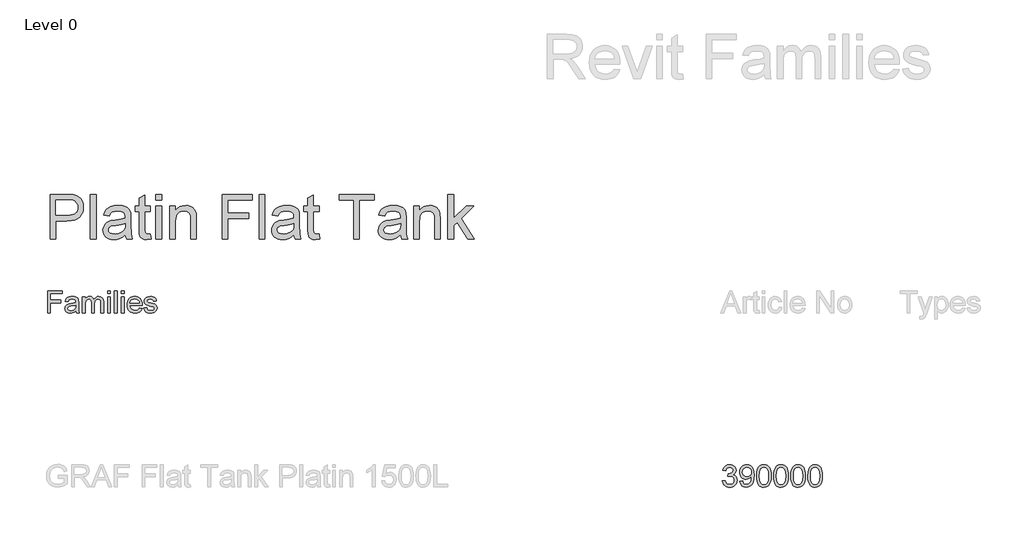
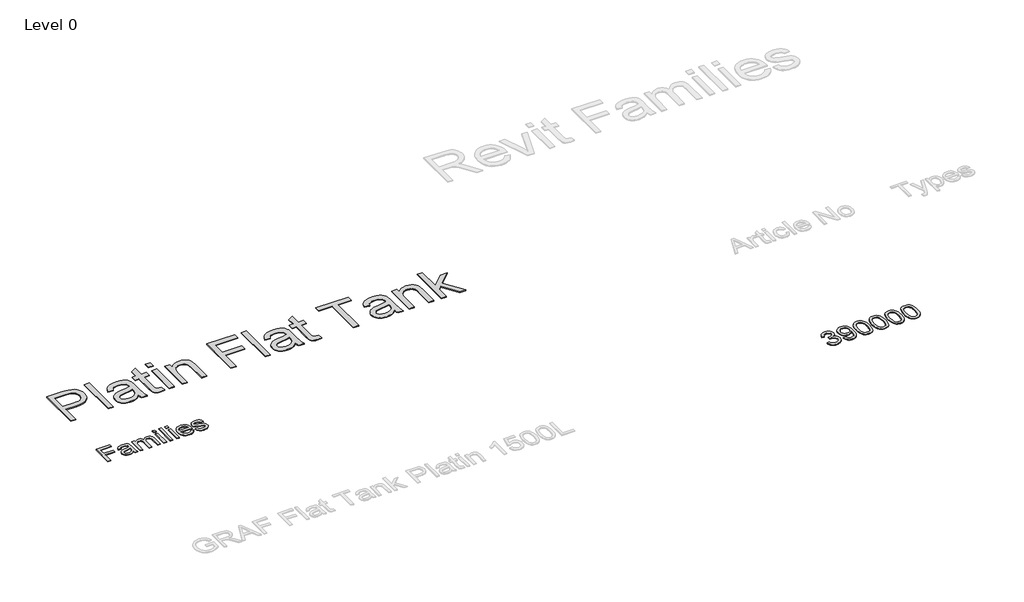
# One storey, part 13 of 14: 3 proxies.
"""IFC4 building model written with IfcOpenShell, lengths in millimetres."""

from ifc_helpers import new_model, si_unit, origin, origin_with_axes, place, context, project, spatial, polyline, outline, extrude, element, save

model = new_model("IFC4")

# Units and contexts
model_context = context("Model", 3, world=origin())
ifc_project = project(units=[si_unit("LENGTHUNIT", "METRE", prefix="MILLI")], contexts=[model_context])

# Site, building, storey
site = spatial("IfcSite", under=ifc_project)
building = spatial("IfcBuilding", under=site)
storey = spatial("IfcBuildingStorey", under=building, Name="Level 0", Elevation=0.0)

# Proxies
placement = place(None, origin())
element("IfcBuildingElementProxy", 1, Name="300mm Arial", ObjectType="300mm Arial", at=placement, inside=storey, context=model_context, shape_type="SweptSolid", body=[
    extrude(outline(polyline([(-15382.9152593, 11653.8274553), (-15382.9152593, 11949.2120707), (-15184.4537209, 11949.2120707), (-15184.4537209, 11912.2889938), (-15345.9921824, 11912.2889938), (-15345.9921824, 11824.5966861), (-15207.530644, 11824.5966861), (-15207.530644, 11787.6736092), (-15345.9921824, 11787.6736092), (-15345.9921824, 11653.8274553), (-15382.9152593, 11653.8274553)])), origin_with_axes(), (0.0, 0.0, 1.0), 10.0),
    extrude(outline(polyline([(-14999.8383363, 11681.519763), (-15017.4795622, 11666.3935611), (-15035.6436247, 11656.4957246), (-15054.7451872, 11651.0329842), (-15075.1989132, 11649.2120707), (-15106.0552834, 11653.5930803), (-15128.8167017, 11666.7361092), (-15142.8521584, 11686.6940419), (-15147.530644, 11711.519763), (-15145.763817, 11726.8262534), (-15140.4633363, 11740.7264938), (-15132.2872545, 11752.6255323), (-15121.8936247, 11761.9284169), (-15096.0402593, 11774.0438015), (-15064.093144, 11779.5966861), (-15026.3407401, 11785.4380323), (-15000.0546824, 11792.2889938), (-14999.8383363, 11800.5101476), (-15002.3804036, 11816.988513), (-15010.0066055, 11827.769763), (-15027.061894, 11835.7745707), (-15050.8239132, 11838.44284), (-15072.8191055, 11836.6669986), (-15088.1796824, 11831.3394746), (-15098.654442, 11821.4867101), (-15105.9921824, 11806.1351476), (-15142.9152593, 11810.7505323), (-15136.5060045, 11830.94284), (-15126.9417017, 11846.8082246), (-15113.3299228, 11858.941638), (-15094.7782401, 11867.9380323), (-15072.0889372, 11873.5089457), (-15046.0642978, 11875.3659169), (-15021.1033603, 11873.7252919), (-15001.3167017, 11868.8034169), (-14986.3978315, 11861.4025755), (-14976.0402593, 11852.3250515), (-14969.171269, 11841.1020948), (-14964.718144, 11827.2649553), (-14962.9152593, 11794.957263), (-14962.9152593, 11749.019763), (-14961.0402593, 11684.8731284), (-14953.6844901, 11653.8274553), (-14990.607567, 11653.8274553), (-14999.8383363, 11681.519763)]), holes=[polyline([(-14999.8383363, 11755.3659169), (-15059.405644, 11744.0438015), (-15091.1724709, 11738.0582246), (-15105.5594901, 11728.3226476), (-15110.607567, 11714.1159169), (-15107.858168, 11703.1363496), (-15099.6099709, 11694.1399553), (-15086.0432642, 11688.1363496), (-15067.3383363, 11686.1351476), (-15047.5066055, 11688.3436813), (-15029.982567, 11694.9692823), (-15015.7758363, 11704.7319025), (-15005.8960286, 11716.3514938), (-15001.515019, 11728.3226476), (-15000.0546824, 11744.9091861), (-14999.8383363, 11755.3659169)])]), origin_with_axes(), (0.0, 0.0, 1.0), 10.0),
    extrude(outline(polyline([(-14912.1460286, 11653.8274553), (-14912.1460286, 11870.7505323), (-14875.2229517, 11870.7505323), (-14875.2229517, 11835.0534169), (-14864.1171824, 11851.4506525), (-14849.8383363, 11864.2962053), (-14832.873192, 11872.598489), (-14813.7085286, 11875.3659169), (-14793.1736728, 11872.5444025), (-14776.7133363, 11864.0798592), (-14764.4176632, 11850.5311813), (-14756.3767978, 11832.457263), (-14742.9182642, 11851.2297991), (-14727.5667017, 11864.6387534), (-14710.3221103, 11872.684126), (-14691.1844901, 11875.3659169), (-14663.4290815, 11870.9037775), (-14642.9032401, 11857.5173592), (-14630.2199468, 11834.8460851), (-14625.9921824, 11802.5293784), (-14625.9921824, 11653.8274553), (-14662.9152593, 11653.8274553), (-14662.9152593, 11786.6639938), (-14666.3407401, 11817.4933207), (-14671.154442, 11825.9939217), (-14678.7445863, 11832.6736092), (-14688.5072065, 11837.0005323), (-14699.8383363, 11838.44284), (-14719.8413411, 11834.7469265), (-14736.1484324, 11823.6591861), (-14746.9927834, 11804.4224073), (-14750.607567, 11776.2793784), (-14750.607567, 11653.8274553), (-14787.530644, 11653.8274553), (-14787.530644, 11790.7745707), (-14789.6670622, 11811.6519746), (-14796.076317, 11826.5438015), (-14807.3533603, 11835.4680803), (-14824.093144, 11838.44284), (-14838.3179036, 11836.4596669), (-14851.4248747, 11830.5101476), (-14862.2421824, 11820.738513), (-14869.5979517, 11807.2889938), (-14873.8167017, 11788.629138), (-14875.2229517, 11763.2264938), (-14875.2229517, 11653.8274553), (-14912.1460286, 11653.8274553)])), origin_with_axes(), (0.0, 0.0, 1.0), 10.0),
    extrude(outline(polyline([(-14570.607567, 11912.2889938), (-14570.607567, 11949.2120707), (-14533.6844901, 11949.2120707), (-14533.6844901, 11912.2889938), (-14570.607567, 11912.2889938)])), origin_with_axes(), (0.0, 0.0, 1.0), 10.0),
    extrude(outline(polyline([(-14570.607567, 11653.8274553), (-14570.607567, 11870.7505323), (-14533.6844901, 11870.7505323), (-14533.6844901, 11653.8274553), (-14570.607567, 11653.8274553)])), origin_with_axes(), (0.0, 0.0, 1.0), 10.0),
    extrude(outline(polyline([(-14478.2998747, 11653.8274553), (-14478.2998747, 11949.2120707), (-14441.3767978, 11949.2120707), (-14441.3767978, 11653.8274553), (-14478.2998747, 11653.8274553)])), origin_with_axes(), (0.0, 0.0, 1.0), 10.0),
    extrude(outline(polyline([(-14385.9921824, 11912.2889938), (-14385.9921824, 11949.2120707), (-14349.0691055, 11949.2120707), (-14349.0691055, 11912.2889938), (-14385.9921824, 11912.2889938)])), origin_with_axes(), (0.0, 0.0, 1.0), 10.0),
    extrude(outline(polyline([(-14385.9921824, 11653.8274553), (-14385.9921824, 11870.7505323), (-14349.0691055, 11870.7505323), (-14349.0691055, 11653.8274553), (-14385.9921824, 11653.8274553)])), origin_with_axes(), (0.0, 0.0, 1.0), 10.0),
    extrude(outline(polyline([(-14141.8094901, 11718.44284), (-14105.607567, 11713.8274553), (-14118.6514372, 11686.5498111), (-14139.4657401, 11666.1591861), (-14167.5817257, 11653.4488496), (-14202.530644, 11649.2120707), (-14225.4408002, 11651.039745), (-14245.8539613, 11656.5227678), (-14263.7701271, 11665.6611392), (-14279.1892978, 11678.4548592), (-14291.5886367, 11694.547858), (-14300.4453074, 11713.5840659), (-14305.7593098, 11735.563483), (-14307.530644, 11760.4861092), (-14305.741281, 11786.2538375), (-14300.373192, 11808.9656765), (-14291.4263771, 11828.621626), (-14278.9008363, 11845.2216861), (-14263.5222305, 11858.4097871), (-14246.0162209, 11867.8298592), (-14226.3828074, 11873.4819025), (-14204.6219901, 11875.3659169), (-14183.5620442, 11873.4864097), (-14164.5168218, 11867.847888), (-14147.486323, 11858.450352), (-14132.4705478, 11845.2938015), (-14120.213186, 11828.7297991), (-14111.4579276, 11809.1099073), (-14106.2047726, 11786.434126), (-14104.4537209, 11760.7024553), (-14104.670067, 11750.7505323), (-14270.607567, 11750.7505323), (-14264.2163411, 11723.1123111), (-14249.3695863, 11702.7938015), (-14227.9423026, 11690.2998111), (-14201.8094901, 11686.1351476), (-14182.1580478, 11688.0642342), (-14165.607567, 11693.8514938), (-14152.1580478, 11703.8575034), (-14141.8094901, 11718.44284)]), holes=[polyline([(-14270.607567, 11787.6736092), (-14141.3767978, 11787.6736092), (-14146.3707882, 11807.1808207), (-14156.1604517, 11821.1351476), (-14177.686894, 11834.1159169), (-14204.7662209, 11838.44284), (-14229.655043, 11834.9903159), (-14250.2349709, 11824.6327438), (-14264.5408603, 11808.4879121), (-14270.607567, 11787.6736092)])]), origin_with_axes(), (0.0, 0.0, 1.0), 10.0),
    extrude(outline(polyline([(-14081.3767978, 11718.44284), (-14044.4537209, 11723.0582246), (-14038.6304036, 11707.2649553), (-14027.3623747, 11695.6543784), (-14010.577519, 11688.5149553), (-13988.2037209, 11686.1351476), (-13966.1003555, 11688.316638), (-13950.5594901, 11694.8611092), (-13941.3647786, 11704.3442823), (-13938.2998747, 11715.3418784), (-13941.3828074, 11724.7529361), (-13950.6316055, 11731.9284169), (-13988.6364132, 11742.457263), (-14044.2373747, 11760.5221669), (-14058.3088892, 11769.5996909), (-14068.5042017, 11781.6159169), (-14074.6971103, 11795.8046188), (-14076.7614132, 11811.3995707), (-14075.1027593, 11825.7054601), (-14070.1267978, 11838.91159), (-14062.2842497, 11850.4951236), (-14052.0258363, 11859.9332246), (-14028.5522786, 11870.8587053), (-13996.7854517, 11875.3659169), (-13972.7529997, 11873.5540178), (-13951.857567, 11868.1183207), (-13935.0546824, 11859.5906765), (-13923.2998747, 11848.5029361), (-13915.5114132, 11834.0347871), (-13910.607567, 11815.3659169), (-13947.530644, 11810.7505323), (-13952.1911007, 11822.3701236), (-13961.4128555, 11831.1231284), (-13975.2860526, 11836.6129121), (-13993.9008363, 11838.44284), (-14015.1027593, 11836.6940419), (-14029.2373747, 11831.4476476), (-14037.1880959, 11823.8755323), (-14039.8383363, 11815.1495707), (-14035.4392978, 11804.4043784), (-14021.6652593, 11796.25534), (-13989.8623747, 11788.394763), (-13935.6676632, 11771.0149553), (-13921.3527593, 11762.7036573), (-13910.499394, 11751.3274553), (-13903.6574468, 11736.8502919), (-13901.3767978, 11719.2361092), (-13904.0540815, 11701.0269746), (-13912.0859324, 11683.8995707), (-13925.1658603, 11669.1970467), (-13942.9873747, 11658.2625515), (-13964.513817, 11651.4746909), (-13988.7085286, 11649.2120707), (-14025.9380959, 11653.5750515), (-14053.107567, 11666.6639938), (-14071.2445863, 11688.3346669), (-14081.3767978, 11718.44284)])), origin_with_axes(), (0.0, 0.0, 1.0), 10.0),
])
element("IfcBuildingElementProxy", 2, Name="300mm Arial", ObjectType="300mm Arial", at=placement, inside=storey, context=model_context, shape_type="SweptSolid", body=[
    extrude(outline(polyline([(-6261.2846424, 9379.074324), (-6223.6135261, 9383.7832135), (-6215.1798313, 9360.1100071), (-6202.8281934, 9344.1255344), (-6185.9516068, 9335.020455), (-6163.9430665, 9331.9854286), (-6138.1177504, 9336.1608892), (-6118.1785463, 9348.6872712), (-6105.4314351, 9367.3756765), (-6101.1823981, 9390.0372074), (-6105.3946469, 9411.5491071), (-6118.0313935, 9428.9959107), (-6137.1612572, 9440.5566024), (-6160.8528577, 9444.4101663), (-6187.266785, 9440.289888), (-6183.0729302, 9477.9610043), (-6177.0396655, 9477.5195459), (-6154.4701051, 9480.2234785), (-6134.2917777, 9488.3352765), (-6120.0547444, 9502.057275), (-6115.3090667, 9521.5918089), (-6118.7487634, 9537.8613901), (-6129.0678533, 9551.0591567), (-6144.8132027, 9559.8055512), (-6164.5316777, 9562.721016), (-6184.2869408, 9559.77796), (-6200.4369604, 9550.9487921), (-6212.2275783, 9536.2335123), (-6218.9046365, 9515.6321206), (-6256.5757528, 9520.3410101), (-6245.4841107, 9554.1677596), (-6225.7472417, 9579.4228585), (-6198.7447032, 9595.1498138), (-6165.8560528, 9600.3921323), (-6142.1736494, 9597.8077613), (-6120.4226264, 9590.0546482), (-6102.083709, 9577.8225719), (-6088.637622, 9561.801311), (-6080.3878683, 9543.3428319), (-6077.6379504, 9523.7991009), (-6080.2499126, 9505.5889421), (-6088.0857991, 9489.0710405), (-6101.0352453, 9474.9995542), (-6118.9878867, 9464.1286413), (-6095.4066508, 9454.6004976), (-6077.932256, 9438.3769016), (-6067.1165253, 9416.3407701), (-6063.5112818, 9389.3750198), (-6065.3139036, 9370.2635502), (-6070.7217689, 9352.6603967), (-6079.7348778, 9336.5655594), (-6092.3532302, 9321.9790383), (-6107.7260991, 9309.8757207), (-6125.0027573, 9301.2304938), (-6144.1832048, 9296.0433577), (-6165.2674416, 9294.3143123), (-6184.323729, 9295.7904388), (-6201.6877592, 9300.2188183), (-6217.3595322, 9307.5994508), (-6231.339048, 9317.9323364), (-6243.0606881, 9330.6104696), (-6251.9588338, 9345.0268453), (-6258.0334853, 9361.1814634), (-6261.2846424, 9379.074324)])), origin_with_axes(), (0.0, 0.0, 1.0), 10.0),
    extrude(outline(polyline([(-6025.8401655, 9374.3654344), (-5988.1690492, 9379.074324), (-5981.7311143, 9357.691183), (-5971.2464774, 9343.132253), (-5956.972656, 9334.7721347), (-5939.1671674, 9331.9854286), (-5923.1918918, 9333.7788533), (-5908.66975, 9339.1591275), (-5896.6032206, 9347.5376399), (-5887.9947819, 9358.3257794), (-5875.670735, 9391.067277), (-5870.2260815, 9434.771658), (-5870.4468107, 9442.1292979), (-5883.4974245, 9426.2000076), (-5900.5763461, 9413.5816551), (-5920.4511709, 9405.3594925), (-5941.8894942, 9402.6187717), (-5959.784654, 9404.2926347), (-5976.2404755, 9409.314224), (-5991.2569587, 9417.6835394), (-6004.8341035, 9429.4005809), (-6016.0843948, 9443.8537448), (-6024.1203171, 9460.4314272), (-6028.9418705, 9479.1336281), (-6030.549055, 9499.9603476), (-6028.8636956, 9521.4814443), (-6023.8076174, 9540.7952491), (-6015.3808205, 9557.9017618), (-6003.5833048, 9572.8009826), (-5989.2474033, 9584.8721106), (-5973.205449, 9593.4943449), (-5955.457442, 9598.6676854), (-5936.0033823, 9600.3921323), (-5907.9063949, 9596.4557949), (-5882.3293992, 9584.6467829), (-5860.9370611, 9565.5537073), (-5845.3940468, 9539.7651795), (-5835.9302825, 9504.1174141), (-5832.7756944, 9455.4466262), (-5835.9210855, 9403.8419793), (-5845.3572586, 9363.954374), (-5861.0014405, 9333.9811884), (-5882.7708575, 9312.1198009), (-5909.7274107, 9298.7656844), (-5940.933001, 9294.3143123), (-5973.1410697, 9299.5658278), (-5998.837627, 9315.3203742), (-6016.8086625, 9340.5846702), (-6025.8401655, 9374.3654344)]), holes=[polyline([(-5870.4468107, 9500.8432644), (-5874.5119068, 9526.3742748), (-5886.7071949, 9546.0191734), (-5905.6347235, 9558.5455553), (-5929.8965411, 9562.721016), (-5955.0596696, 9558.2236586), (-5975.2196029, 9544.7315864), (-5988.4633548, 9524.0842094), (-5992.8779387, 9498.1209376), (-5988.7024781, 9474.8432044), (-5976.1760961, 9456.3663312), (-5956.5128035, 9444.3089988), (-5930.9266107, 9440.289888), (-5906.8579312, 9444.3089988), (-5887.4797471, 9456.3663312), (-5874.7050448, 9475.5237861), (-5870.4468107, 9500.8432644)])]), origin_with_axes(), (0.0, 0.0, 1.0), 10.0),
    extrude(outline(polyline([(-5799.8134676, 9447.2796459), (-5797.0451556, 9495.5181725), (-5788.7402196, 9533.9894321), (-5774.981433, 9563.282036), (-5755.8515692, 9583.9845953), (-5731.2126726, 9596.290248), (-5700.9267873, 9600.3921323), (-5677.7134334, 9597.9641111), (-5656.9281007, 9590.6800476), (-5639.5456764, 9578.8250503), (-5626.5410479, 9562.6842278), (-5616.7185986, 9542.3955357), (-5608.8827121, 9518.0969299), (-5603.7507583, 9487.2408276), (-5602.040107, 9447.2796459), (-5604.7808279, 9399.3170308), (-5613.0029905, 9360.9377416), (-5626.6790037, 9331.6175466), (-5645.7812763, 9310.8322139), (-5670.4753552, 9298.4437877), (-5700.9267873, 9294.3143123), (-5721.6753319, 9296.107737), (-5740.0694316, 9301.4880112), (-5756.1090866, 9310.4551348), (-5769.7942968, 9323.0091079), (-5782.9276841, 9345.7028285), (-5792.3086749, 9373.9791583), (-5797.9372695, 9407.8380975), (-5799.8134676, 9447.2796459)]), holes=[polyline([(-5762.1423513, 9447.3532223), (-5757.7277674, 9388.0966299), (-5752.2095375, 9367.8286312), (-5744.4840156, 9353.8008309), (-5724.7655406, 9337.4392792), (-5700.9267873, 9331.9854286), (-5677.088034, 9337.4576733), (-5657.3695591, 9353.8744073), (-5649.6440372, 9367.9252003), (-5644.1258073, 9388.1886004), (-5639.7112233, 9447.3532223), (-5643.9786545, 9505.2762424), (-5649.3129434, 9525.4775625), (-5656.7809479, 9539.8387559), (-5676.4626347, 9557.0004509), (-5701.3682457, 9562.721016), (-5724.9494816, 9557.6810326), (-5743.8954044, 9542.5610826), (-5751.8784437, 9526.9260978), (-5757.5806146, 9505.8464595), (-5762.1423513, 9447.3532223)])]), origin_with_axes(), (0.0, 0.0, 1.0), 10.0),
    extrude(outline(polyline([(-5569.0778803, 9447.2796459), (-5566.3095682, 9495.5181725), (-5558.0046322, 9533.9894321), (-5544.2458456, 9563.282036), (-5525.1159818, 9583.9845953), (-5500.4770852, 9596.290248), (-5470.1912, 9600.3921323), (-5446.9778461, 9597.9641111), (-5426.1925133, 9590.6800476), (-5408.8100891, 9578.8250503), (-5395.8054605, 9562.6842278), (-5385.9830113, 9542.3955357), (-5378.1471248, 9518.0969299), (-5373.0151709, 9487.2408276), (-5371.3045197, 9447.2796459), (-5374.0452405, 9399.3170308), (-5382.2674031, 9360.9377416), (-5395.9434163, 9331.6175466), (-5415.0456889, 9310.8322139), (-5439.7397678, 9298.4437877), (-5470.1912, 9294.3143123), (-5490.9397445, 9296.107737), (-5509.3338442, 9301.4880112), (-5525.3734992, 9310.4551348), (-5539.0587095, 9323.0091079), (-5552.1920967, 9345.7028285), (-5561.5730876, 9373.9791583), (-5567.2016821, 9407.8380975), (-5569.0778803, 9447.2796459)]), holes=[polyline([(-5531.406764, 9447.3532223), (-5526.99218, 9388.0966299), (-5521.4739501, 9367.8286312), (-5513.7484282, 9353.8008309), (-5494.0299532, 9337.4392792), (-5470.1912, 9331.9854286), (-5446.3524467, 9337.4576733), (-5426.6339717, 9353.8744073), (-5418.9084498, 9367.9252003), (-5413.3902199, 9388.1886004), (-5408.975636, 9447.3532223), (-5413.2430671, 9505.2762424), (-5418.577356, 9525.4775625), (-5426.0453605, 9539.8387559), (-5445.7270473, 9557.0004509), (-5470.6326584, 9562.721016), (-5494.2138942, 9557.6810326), (-5513.159817, 9542.5610826), (-5521.1428563, 9526.9260978), (-5526.8450272, 9505.8464595), (-5531.406764, 9447.3532223)])]), origin_with_axes(), (0.0, 0.0, 1.0), 10.0),
    extrude(outline(polyline([(-5338.3422929, 9447.2796459), (-5335.5739809, 9495.5181725), (-5327.2690448, 9533.9894321), (-5313.5102582, 9563.282036), (-5294.3803945, 9583.9845953), (-5269.7414978, 9596.290248), (-5239.4556126, 9600.3921323), (-5216.2422587, 9597.9641111), (-5195.456926, 9590.6800476), (-5178.0745017, 9578.8250503), (-5165.0698732, 9562.6842278), (-5155.2474239, 9542.3955357), (-5147.4115374, 9518.0969299), (-5142.2795836, 9487.2408276), (-5140.5689323, 9447.2796459), (-5143.3096531, 9399.3170308), (-5151.5318157, 9360.9377416), (-5165.2078289, 9331.6175466), (-5184.3101015, 9310.8322139), (-5209.0041804, 9298.4437877), (-5239.4556126, 9294.3143123), (-5260.2041571, 9296.107737), (-5278.5982569, 9301.4880112), (-5294.6379119, 9310.4551348), (-5308.3231221, 9323.0091079), (-5321.4565093, 9345.7028285), (-5330.8375002, 9373.9791583), (-5336.4660947, 9407.8380975), (-5338.3422929, 9447.2796459)]), holes=[polyline([(-5300.6711766, 9447.3532223), (-5296.2565926, 9388.0966299), (-5290.7383627, 9367.8286312), (-5283.0128408, 9353.8008309), (-5263.2943659, 9337.4392792), (-5239.4556126, 9331.9854286), (-5215.6168593, 9337.4576733), (-5195.8983844, 9353.8744073), (-5188.1728625, 9367.9252003), (-5182.6546325, 9388.1886004), (-5178.2400486, 9447.3532223), (-5182.5074797, 9505.2762424), (-5187.8417687, 9525.4775625), (-5195.3097732, 9539.8387559), (-5214.9914599, 9557.0004509), (-5239.897071, 9562.721016), (-5263.4783069, 9557.6810326), (-5282.4242296, 9542.5610826), (-5290.4072689, 9526.9260978), (-5296.1094398, 9505.8464595), (-5300.6711766, 9447.3532223)])]), origin_with_axes(), (0.0, 0.0, 1.0), 10.0),
    extrude(outline(polyline([(-5107.6067055, 9447.2796459), (-5104.8383935, 9495.5181725), (-5096.5334575, 9533.9894321), (-5082.7746708, 9563.282036), (-5063.6448071, 9583.9845953), (-5039.0059105, 9596.290248), (-5008.7200252, 9600.3921323), (-4985.5066713, 9597.9641111), (-4964.7213386, 9590.6800476), (-4947.3389143, 9578.8250503), (-4934.3342858, 9562.6842278), (-4924.5118365, 9542.3955357), (-4916.67595, 9518.0969299), (-4911.5439962, 9487.2408276), (-4909.8333449, 9447.2796459), (-4912.5740658, 9399.3170308), (-4920.7962284, 9360.9377416), (-4934.4722415, 9331.6175466), (-4953.5745141, 9310.8322139), (-4978.2685931, 9298.4437877), (-5008.7200252, 9294.3143123), (-5029.4685697, 9296.107737), (-5047.8626695, 9301.4880112), (-5063.9023245, 9310.4551348), (-5077.5875347, 9323.0091079), (-5090.7209219, 9345.7028285), (-5100.1019128, 9373.9791583), (-5105.7305073, 9407.8380975), (-5107.6067055, 9447.2796459)]), holes=[polyline([(-5069.9355892, 9447.3532223), (-5065.5210053, 9388.0966299), (-5060.0027753, 9367.8286312), (-5052.2772534, 9353.8008309), (-5032.5587785, 9337.4392792), (-5008.7200252, 9331.9854286), (-4984.8812719, 9337.4576733), (-4965.162797, 9353.8744073), (-4957.4372751, 9367.9252003), (-4951.9190452, 9388.1886004), (-4947.5044612, 9447.3532223), (-4951.7718924, 9505.2762424), (-4957.1061813, 9525.4775625), (-4964.5741858, 9539.8387559), (-4984.2558725, 9557.0004509), (-5009.1614836, 9562.721016), (-5032.7427195, 9557.6810326), (-5051.6886422, 9542.5610826), (-5059.6716815, 9526.9260978), (-5065.3738525, 9505.8464595), (-5069.9355892, 9447.3532223)])]), origin_with_axes(), (0.0, 0.0, 1.0), 10.0),
])
element("IfcBuildingElementProxy", 3, Name="600mm Arial", ObjectType="600mm Arial", at=placement, inside=storey, context=model_context, shape_type="SweptSolid", body=[
    extrude(outline(polyline([(-15349.2984981, 12653.8274553), (-15349.2984981, 13256.5653162), (-15125.9205506, 13256.5653162), (-15073.9020365, 13255.1305765), (-15035.8630382, 13250.8263571), (-14995.7087185, 13240.1025969), (-14962.6545212, 13222.6465963), (-14936.0382588, 13197.6674088), (-14915.1977438, 13164.3740882), (-14901.7332628, 13125.1026853), (-14897.2451024, 13082.1892505), (-14900.2755304, 13045.1895189), (-14909.3668142, 13011.1512373), (-14924.5189539, 12980.0744057), (-14945.7319494, 12951.9590242), (-14974.8544079, 12928.6536998), (-15013.7349362, 12912.0070395), (-15062.3735345, 12902.0190434), (-15120.7702027, 12898.6897113), (-15273.9562655, 12898.6897113), (-15273.9562655, 12653.8274553), (-15349.2984981, 12653.8274553)]), holes=[polyline([(-15273.9562655, 12974.0319439), (-15116.3556188, 12974.0319439), (-15080.1192422, 12975.7609893), (-15049.5482484, 12980.9481254), (-15024.6426374, 12989.5933523), (-15005.402409, 13001.69667), (-14991.0458142, 13016.9361816), (-14980.7911035, 13034.9899905), (-14974.6382772, 13055.8580967), (-14972.5873351, 13079.5405002), (-14977.4249833, 13113.3856437), (-14991.937928, 13141.9332865), (-15014.3235474, 13163.4175951), (-15042.7792197, 13176.0727357), (-15071.8418974, 13179.9354966), (-15118.1214523, 13181.2230836), (-15273.9562655, 13181.2230836), (-15273.9562655, 12974.0319439)])]), origin_with_axes(), (0.0, 0.0, 1.0), 10.0),
    extrude(outline(polyline([(-14803.0673117, 12653.8274553), (-14803.0673117, 13256.5653162), (-14727.7250791, 13256.5653162), (-14727.7250791, 12653.8274553), (-14803.0673117, 12653.8274553)])), origin_with_axes(), (0.0, 0.0, 1.0), 10.0),
    extrude(outline(polyline([(-14332.1783579, 12710.3341298), (-14368.1756111, 12679.4688304), (-14405.2397221, 12659.2721089), (-14444.2168195, 12648.1252844), (-14485.9530318, 12644.4096763), (-14519.4992713, 12646.6445594), (-14548.9160353, 12653.3492087), (-14574.203324, 12664.5236243), (-14595.3611372, 12680.1678062), (-14612.0675783, 12699.2884729), (-14624.0007505, 12720.8923431), (-14631.1606539, 12744.9794167), (-14633.5472883, 12771.5496938), (-14629.9420447, 12802.7828752), (-14619.1263141, 12831.146577), (-14602.4428656, 12855.4267887), (-14581.2344686, 12874.4094996), (-14556.3104634, 12888.7568975), (-14528.4801905, 12899.1311697), (-14463.2915009, 12910.4619352), (-14386.2570111, 12922.3813118), (-14332.6198162, 12936.3608276), (-14332.1783579, 12953.1362466), (-14337.365494, 12986.760661), (-14343.8494141, 12999.2134665), (-14352.9269024, 13008.7600043), (-14368.6170695, 13018.288148), (-14387.7285391, 13025.0939649), (-14436.2153861, 13030.5386184), (-14481.0969895, 13026.9149807), (-14512.4405355, 13016.0440678), (-14533.8144794, 12995.9393167), (-14548.7872766, 12964.6141649), (-14624.1295092, 12974.0319439), (-14611.0513043, 13015.2347274), (-14591.5351645, 13047.608343), (-14563.7600738, 13072.3668012), (-14525.9050165, 13090.7241128), (-14479.6070674, 13102.0916665), (-14426.5033014, 13105.880851), (-14375.5700392, 13102.5331249), (-14335.1949902, 13092.4899464), (-14304.7527551, 13077.3883905), (-14283.6179345, 13058.865532), (-14269.6016305, 13035.9648778), (-14260.5149452, 13007.7299347), (-14256.8361252, 12941.8054812), (-14256.8361252, 12848.0691488), (-14253.0101525, 12717.1767349), (-14247.3447698, 12684.8215134), (-14238.0005671, 12653.8274553), (-14313.3427997, 12653.8274553), (-14325.4093291, 12680.0206534), (-14332.1783579, 12710.3341298)]), holes=[polyline([(-14332.1783579, 12861.018595), (-14382.7989204, 12848.473819), (-14453.7265691, 12837.9156057), (-14518.5473766, 12825.7019235), (-14535.4147661, 12817.3510022), (-14547.9043598, 12805.8362957), (-14555.6298817, 12792.0407209), (-14558.2050557, 12776.8471945), (-14552.5948553, 12754.443181), (-14535.764254, 12736.0858695), (-14508.0811338, 12723.835399), (-14469.9133768, 12719.7519089), (-14429.4463574, 12724.2584633), (-14393.6882274, 12737.7781266), (-14364.6991262, 12757.6989367), (-14344.5391929, 12781.4089313), (-14335.5996604, 12805.8362957), (-14332.6198162, 12839.6814393), (-14332.1783579, 12861.018595)])]), origin_with_axes(), (0.0, 0.0, 1.0), 10.0),
    extrude(outline(polyline([(-13993.1383111, 12716.6617001), (-13983.720532, 12651.6201634), (-14040.0800537, 12644.4096763), (-14076.2428538, 12647.5366732), (-14103.2086041, 12656.9176641), (-14122.2648914, 12671.3754265), (-14134.6993028, 12689.7327381), (-14141.541908, 12721.2602251), (-14143.8227763, 12775.2285137), (-14143.8227763, 13021.1208393), (-14200.3294508, 13021.1208393), (-14200.3294508, 13096.4630719), (-14143.8227763, 13096.4630719), (-14143.8227763, 13204.0317673), (-14068.4805437, 13248.3247595), (-14068.4805437, 13096.4630719), (-13993.1383111, 13096.4630719), (-13993.1383111, 13021.1208393), (-14068.4805437, 13021.1208393), (-14068.4805437, 12777.4358057), (-14064.5074182, 12738.587467), (-14051.6315483, 12724.8286804), (-14040.7606354, 12721.0211018), (-14025.9533851, 12719.7519089), (-13993.1383111, 12716.6617001)])), origin_with_axes(), (0.0, 0.0, 1.0), 10.0),
    extrude(outline(polyline([(-13917.7960785, 13181.2230836), (-13917.7960785, 13256.5653162), (-13842.4538459, 13256.5653162), (-13842.4538459, 13181.2230836), (-13917.7960785, 13181.2230836)])), origin_with_axes(), (0.0, 0.0, 1.0), 10.0),
    extrude(outline(polyline([(-13917.7960785, 12653.8274553), (-13917.7960785, 13096.4630719), (-13842.4538459, 13096.4630719), (-13842.4538459, 12653.8274553), (-13917.7960785, 12653.8274553)])), origin_with_axes(), (0.0, 0.0, 1.0), 10.0),
    extrude(outline(polyline([(-13729.440497, 12653.8274553), (-13729.440497, 13096.4630719), (-13654.0982643, 13096.4630719), (-13654.0982643, 13034.6588967), (-13627.9234604, 13065.8185017), (-13596.4879439, 13088.0753624), (-13559.7917149, 13101.4294789), (-13517.8347733, 13105.880851), (-13480.6970859, 13102.2940016), (-13446.6863955, 13091.5334532), (-13418.3226936, 13074.9419752), (-13398.1259721, 13053.8623369), (-13384.4223678, 13028.3497205), (-13375.5380176, 12998.4593084), (-13371.564892, 12925.6186734), (-13371.564892, 12653.8274553), (-13446.9071247, 12653.8274553), (-13446.9071247, 12915.4651303), (-13449.0776284, 12954.4238336), (-13455.5891397, 12982.1253478), (-13467.6004869, 13001.9725815), (-13486.2704981, 13017.368443), (-13510.2012219, 13027.2460745), (-13537.9947067, 13030.5386184), (-13560.8723682, 13028.6900114), (-13582.122152, 13023.1441903), (-13601.7440579, 13013.9011552), (-13619.738086, 13000.960906), (-13634.770664, 12982.8519148), (-13645.5082198, 12958.1026535), (-13651.9507532, 12926.7131223), (-13654.0982643, 12888.6833211), (-13654.0982643, 12653.8274553), (-13729.440497, 12653.8274553)])), origin_with_axes(), (0.0, 0.0, 1.0), 10.0),
    extrude(outline(polyline([(-13023.1070662, 12653.8274553), (-13023.1070662, 13256.5653162), (-12618.1425659, 13256.5653162), (-12618.1425659, 13181.2230836), (-12947.7648336, 13181.2230836), (-12947.7648336, 13002.2852812), (-12665.2314613, 13002.2852812), (-12665.2314613, 12926.9430486), (-12947.7648336, 12926.9430486), (-12947.7648336, 12653.8274553), (-13023.1070662, 12653.8274553)])), origin_with_axes(), (0.0, 0.0, 1.0), 10.0),
    extrude(outline(polyline([(-12523.9647752, 12653.8274553), (-12523.9647752, 13256.5653162), (-12448.6225425, 13256.5653162), (-12448.6225425, 12653.8274553), (-12523.9647752, 12653.8274553)])), origin_with_axes(), (0.0, 0.0, 1.0), 10.0),
    extrude(outline(polyline([(-12053.0758213, 12710.3341298), (-12089.0730746, 12679.4688304), (-12126.1371856, 12659.2721089), (-12165.114283, 12648.1252844), (-12206.8504953, 12644.4096763), (-12240.3967348, 12646.6445594), (-12269.8134988, 12653.3492087), (-12295.1007874, 12664.5236243), (-12316.2586007, 12680.1678062), (-12332.9650418, 12699.2884729), (-12344.898214, 12720.8923431), (-12352.0581173, 12744.9794167), (-12354.4447518, 12771.5496938), (-12350.8395082, 12802.7828752), (-12340.0237776, 12831.146577), (-12323.3403291, 12855.4267887), (-12302.1319321, 12874.4094996), (-12277.2079269, 12888.7568975), (-12249.377654, 12899.1311697), (-12184.1889644, 12910.4619352), (-12107.1544746, 12922.3813118), (-12053.5172797, 12936.3608276), (-12053.0758213, 12953.1362466), (-12058.2629575, 12986.760661), (-12064.7468776, 12999.2134665), (-12073.8243659, 13008.7600043), (-12089.514533, 13018.288148), (-12108.6260026, 13025.0939649), (-12157.1128496, 13030.5386184), (-12201.994453, 13026.9149807), (-12233.337999, 13016.0440678), (-12254.7119429, 12995.9393167), (-12269.6847401, 12964.6141649), (-12345.0269727, 12974.0319439), (-12331.9487678, 13015.2347274), (-12312.4326279, 13047.608343), (-12284.6575373, 13072.3668012), (-12246.80248, 13090.7241128), (-12200.5045309, 13102.0916665), (-12147.4007649, 13105.880851), (-12096.4675027, 13102.5331249), (-12056.0924537, 13092.4899464), (-12025.6502186, 13077.3883905), (-12004.515398, 13058.865532), (-11990.499094, 13035.9648778), (-11981.4124087, 13007.7299347), (-11977.7335887, 12941.8054812), (-11977.7335887, 12848.0691488), (-11973.907616, 12717.1767349), (-11968.2422332, 12684.8215134), (-11958.8980306, 12653.8274553), (-12034.2402632, 12653.8274553), (-12046.3067926, 12680.0206534), (-12053.0758213, 12710.3341298)]), holes=[polyline([(-12053.0758213, 12861.018595), (-12103.6963839, 12848.473819), (-12174.6240325, 12837.9156057), (-12239.4448401, 12825.7019235), (-12256.3122296, 12817.3510022), (-12268.8018233, 12805.8362957), (-12276.5273452, 12792.0407209), (-12279.1025192, 12776.8471945), (-12273.4923187, 12754.443181), (-12256.6617175, 12736.0858695), (-12228.9785973, 12723.835399), (-12190.8108403, 12719.7519089), (-12150.3438209, 12724.2584633), (-12114.5856909, 12737.7781266), (-12085.5965897, 12757.6989367), (-12065.4366564, 12781.4089313), (-12056.4971239, 12805.8362957), (-12053.5172797, 12839.6814393), (-12053.0758213, 12861.018595)])]), origin_with_axes(), (0.0, 0.0, 1.0), 10.0),
    extrude(outline(polyline([(-11714.0357746, 12716.6617001), (-11704.6179955, 12651.6201634), (-11760.9775172, 12644.4096763), (-11797.1403173, 12647.5366732), (-11824.1060675, 12656.9176641), (-11843.1623549, 12671.3754265), (-11855.5967663, 12689.7327381), (-11862.4393714, 12721.2602251), (-11864.7202398, 12775.2285137), (-11864.7202398, 13021.1208393), (-11921.2269143, 13021.1208393), (-11921.2269143, 13096.4630719), (-11864.7202398, 13096.4630719), (-11864.7202398, 13204.0317673), (-11789.3780072, 13248.3247595), (-11789.3780072, 13096.4630719), (-11714.0357746, 13096.4630719), (-11714.0357746, 13021.1208393), (-11789.3780072, 13021.1208393), (-11789.3780072, 12777.4358057), (-11785.4048816, 12738.587467), (-11772.5290118, 12724.8286804), (-11761.6580989, 12721.0211018), (-11746.8508485, 12719.7519089), (-11714.0357746, 12716.6617001)])), origin_with_axes(), (0.0, 0.0, 1.0), 10.0),
    extrude(outline(polyline([(-11243.1468208, 12653.8274553), (-11243.1468208, 13181.2230836), (-11440.9201814, 13181.2230836), (-11440.9201814, 13256.5653162), (-10970.0312275, 13256.5653162), (-10970.0312275, 13181.2230836), (-11167.8045881, 13181.2230836), (-11167.8045881, 12653.8274553), (-11243.1468208, 12653.8274553)])), origin_with_axes(), (0.0, 0.0, 1.0), 10.0),
    extrude(outline(polyline([(-10612.1556226, 12710.3341298), (-10648.1528759, 12679.4688304), (-10685.2169869, 12659.2721089), (-10724.1940843, 12648.1252844), (-10765.9302966, 12644.4096763), (-10799.476536, 12646.6445594), (-10828.8933001, 12653.3492087), (-10854.1805887, 12664.5236243), (-10875.338402, 12680.1678062), (-10892.0448431, 12699.2884729), (-10903.9780153, 12720.8923431), (-10911.1379186, 12744.9794167), (-10913.5245531, 12771.5496938), (-10909.9193095, 12802.7828752), (-10899.1035789, 12831.146577), (-10882.4201304, 12855.4267887), (-10861.2117334, 12874.4094996), (-10836.2877282, 12888.7568975), (-10808.4574552, 12899.1311697), (-10743.2687657, 12910.4619352), (-10666.2342759, 12922.3813118), (-10612.597081, 12936.3608276), (-10612.1556226, 12953.1362466), (-10617.3427588, 12986.760661), (-10623.8266789, 12999.2134665), (-10632.9041672, 13008.7600043), (-10648.5943342, 13018.288148), (-10667.7058039, 13025.0939649), (-10716.1926509, 13030.5386184), (-10761.0742543, 13026.9149807), (-10792.4178003, 13016.0440678), (-10813.7917442, 12995.9393167), (-10828.7645414, 12964.6141649), (-10904.106774, 12974.0319439), (-10891.0285691, 13015.2347274), (-10871.5124292, 13047.608343), (-10843.7373386, 13072.3668012), (-10805.8822813, 13090.7241128), (-10759.5843322, 13102.0916665), (-10706.4805662, 13105.880851), (-10655.547304, 13102.5331249), (-10615.172255, 13092.4899464), (-10584.7300199, 13077.3883905), (-10563.5951993, 13058.865532), (-10549.5788952, 13035.9648778), (-10540.49221, 13007.7299347), (-10536.81339, 12941.8054812), (-10536.81339, 12848.0691488), (-10532.9874173, 12717.1767349), (-10527.3220345, 12684.8215134), (-10517.9778319, 12653.8274553), (-10593.3200645, 12653.8274553), (-10605.3865939, 12680.0206534), (-10612.1556226, 12710.3341298)]), holes=[polyline([(-10612.1556226, 12861.018595), (-10662.7761852, 12848.473819), (-10733.7038338, 12837.9156057), (-10798.5246414, 12825.7019235), (-10815.3920309, 12817.3510022), (-10827.8816246, 12805.8362957), (-10835.6071465, 12792.0407209), (-10838.1823205, 12776.8471945), (-10832.57212, 12754.443181), (-10815.7415188, 12736.0858695), (-10788.0583986, 12723.835399), (-10749.8906416, 12719.7519089), (-10709.4236221, 12724.2584633), (-10673.6654922, 12737.7781266), (-10644.676391, 12757.6989367), (-10624.5164577, 12781.4089313), (-10615.5769252, 12805.8362957), (-10612.597081, 12839.6814393), (-10612.1556226, 12861.018595)])]), origin_with_axes(), (0.0, 0.0, 1.0), 10.0),
    extrude(outline(polyline([(-10433.2178202, 12653.8274553), (-10433.2178202, 13096.4630719), (-10357.8755876, 13096.4630719), (-10357.8755876, 13034.6588967), (-10331.7007836, 13065.8185017), (-10300.2652671, 13088.0753624), (-10263.5690381, 13101.4294789), (-10221.6120965, 13105.880851), (-10184.4744091, 13102.2940016), (-10150.4637187, 13091.5334532), (-10122.1000168, 13074.9419752), (-10101.9032953, 13053.8623369), (-10088.199691, 13028.3497205), (-10079.3153408, 12998.4593084), (-10075.3422153, 12925.6186734), (-10075.3422153, 12653.8274553), (-10150.6844479, 12653.8274553), (-10150.6844479, 12915.4651303), (-10152.8549516, 12954.4238336), (-10159.366463, 12982.1253478), (-10171.3778101, 13001.9725815), (-10190.0478214, 13017.368443), (-10213.9785451, 13027.2460745), (-10241.7720299, 13030.5386184), (-10264.6496915, 13028.6900114), (-10285.8994752, 13023.1441903), (-10305.5213811, 13013.9011552), (-10323.5154092, 13000.960906), (-10338.5479872, 12982.8519148), (-10349.285543, 12958.1026535), (-10355.7280764, 12926.7131223), (-10357.8755876, 12888.6833211), (-10357.8755876, 12653.8274553), (-10433.2178202, 12653.8274553)])), origin_with_axes(), (0.0, 0.0, 1.0), 10.0),
    extrude(outline(polyline([(-9971.7466454, 12653.8274553), (-9971.7466454, 13256.5653162), (-9896.4044128, 13256.5653162), (-9896.4044128, 12932.6820077), (-9727.4730006, 13096.4630719), (-9623.2888196, 13096.4630719), (-9794.2803709, 12930.6218685), (-9613.8710405, 12653.8274553), (-9701.8684138, 12653.8274553), (-9848.2854478, 12878.2354724), (-9896.4044128, 12831.5880354), (-9896.4044128, 12653.8274553), (-9971.7466454, 12653.8274553)])), origin_with_axes(), (0.0, 0.0, 1.0), 10.0),
])

save(model, "model.ifc")
